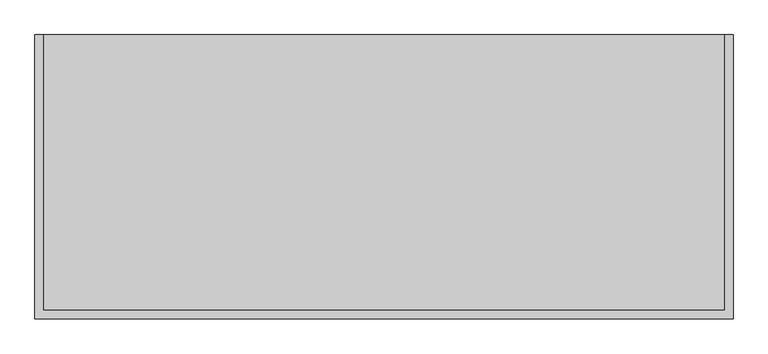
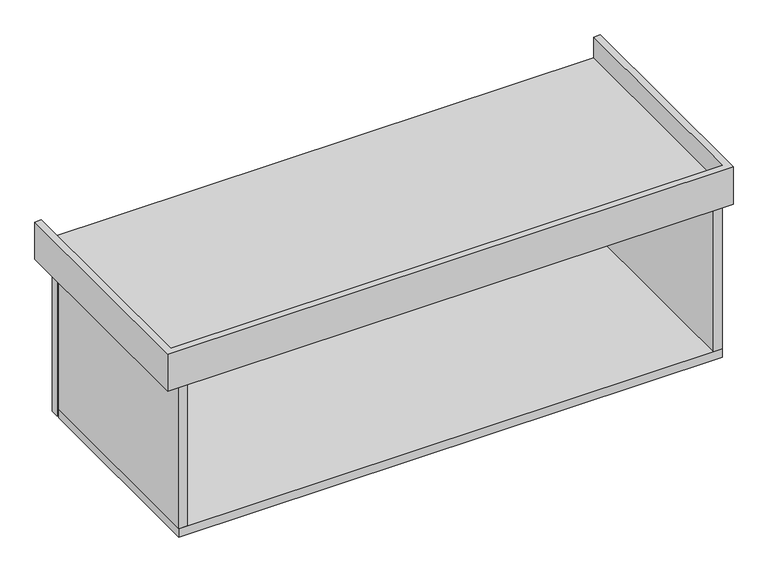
"""IFC4 building model written with IfcOpenShell, lengths in millimetres: furniture geometry, Mueble colgado 2 cajones al lado - lavabo sobreponer : MB9  mueble baño colgado-2 cajones al lado 150."""

import ifcopenshell
import ifcopenshell.guid

model = None  # the IFC model being written
_history = None  # IfcOwnerHistory: only IFC2X3 demands one
_inside = {}  # id of a spatial element -> (the spatial element, [elements in it])
_under = {}  # id of a project, library or spatial element -> (it, [spatial elements below it])
_declared = {}  # id of a project -> (the project, [libraries it declares])
_typed = {}  # id of a type object -> (the type object, [elements of that type])
_made_of = {}  # id of a material, layer set ... -> (it, [elements and type objects made of it])


def new_model(schema):
    """Start an empty IFC model of exactly this schema.

    Asked for "IFC4X3", IfcOpenShell would pick the latest addendum, in which some entities
    have other attributes; the version numbers below select the first issue.
    IFC2X3 requires an IfcOwnerHistory on every rooted entity: one is made here for all.
    """
    global model, _history
    if schema == "IFC4X3":
        model = ifcopenshell.file(schema_version=(4, 3, 0, 0))
    else:
        model = ifcopenshell.file(schema=schema)
    _inside.clear()
    _under.clear()
    _declared.clear()
    _typed.clear()
    _made_of.clear()
    _history = None
    if model.schema == "IFC2X3":
        org = make("IfcOrganization", Name="unknown")
        user = make(
            "IfcPersonAndOrganization",
            ThePerson=make("IfcPerson", FamilyName="unknown"),
            TheOrganization=org,
        )
        app = make(
            "IfcApplication",
            ApplicationDeveloper=org,
            Version="unknown",
            ApplicationFullName="unknown",
            ApplicationIdentifier="unknown",
        )
        _history = make(
            "IfcOwnerHistory",
            OwningUser=user,
            OwningApplication=app,
            ChangeAction="ADDED",
            CreationDate=0,
        )
    return model


def make(cls, **values):
    """One entity of the class cls with the attributes given. An attribute that is None is left unset."""
    return model.create_entity(
        cls, **{name: value for name, value in values.items() if value is not None}
    )


def rooted(cls, **values):
    """An entity with a GlobalId (a new one), such as an element, a storey or a relation."""
    return make(cls, GlobalId=ifcopenshell.guid.new(), OwnerHistory=_history, **values)


def si_unit(unit_type, name, prefix=None):
    """IfcSIUnit, for example si_unit("LENGTHUNIT", "METRE", prefix="MILLI")."""
    return make("IfcSIUnit", UnitType=unit_type, Prefix=prefix, Name=name)


def assignment(units):
    """IfcUnitAssignment: the units of a project."""
    return None if units is None else make("IfcUnitAssignment", Units=units)


def point(xyz):
    """IfcCartesianPoint."""
    return None if xyz is None else make("IfcCartesianPoint", Coordinates=xyz)


def direction(xyz):
    """IfcDirection."""
    return None if xyz is None else make("IfcDirection", DirectionRatios=xyz)


def frame(location, z_axis=None, x_axis=None):
    """IfcAxis2Placement3D, a coordinate frame: its origin and axes. An axis left out is left unset."""
    return make(
        "IfcAxis2Placement3D",
        Location=point(location),
        Axis=direction(z_axis),
        RefDirection=direction(x_axis),
    )


def origin():
    """The frame at (0, 0, 0) with its axes left unset."""
    return frame((0.0, 0.0, 0.0))


def place(relative_to, where):
    """IfcLocalPlacement: puts the frame where relative to a parent placement (None: the world)."""
    return make(
        "IfcLocalPlacement", PlacementRelTo=relative_to, RelativePlacement=where
    )


def context(
    kind, dimensions, precision=None, world=None, true_north=None, identifier=None
):
    """IfcGeometricRepresentationContext, for example the 3D "Model" context."""
    return make(
        "IfcGeometricRepresentationContext",
        ContextIdentifier=identifier,
        ContextType=kind,
        CoordinateSpaceDimension=dimensions,
        Precision=precision,
        WorldCoordinateSystem=world,
        TrueNorth=true_north,
    )


def project(units=None, contexts=None):
    """IfcProject with its units and contexts."""
    return rooted(
        "IfcProject",
        Name="project",
        RepresentationContexts=contexts,
        UnitsInContext=assignment(units),
    )


def spatial(cls, under=None, at=None, **own):
    """A site, building, storey or space (cls), placed at a placement, below another one or the project."""
    s = rooted(cls, ObjectPlacement=at, **own)
    if under is not None:
        _under.setdefault(under.id(), (under, []))[1].append(s)
    return s


def polyline(points):
    """IfcPolyline through the points."""
    return make("IfcPolyline", Points=[point(p) for p in points])


def outline(outer, holes=None, kind="AREA"):
    """IfcArbitraryClosedProfileDef: a profile drawn as a closed curve; with holes, ...WithVoids."""
    if holes is None:
        return make("IfcArbitraryClosedProfileDef", ProfileType=kind, OuterCurve=outer)
    return make(
        "IfcArbitraryProfileDefWithVoids",
        ProfileType=kind,
        OuterCurve=outer,
        InnerCurves=holes,
    )


def extrude(swept, where, along, depth):
    """IfcExtrudedAreaSolid: the profile swept, set in the frame where, extruded along a direction by depth."""
    return make(
        "IfcExtrudedAreaSolid",
        SweptArea=swept,
        Position=where,
        ExtrudedDirection=direction(along),
        Depth=depth,
    )


def faces_of(points, faces, orient=None, outer=None):
    """IfcFace entities. A face is a list of loops; a loop is a list of indices into points, from 0.

    orient and outer hold one flag for each loop. By default every Orientation is true, the
    first loop of a face is its IfcFaceOuterBound and the others are IfcFaceBound.
    """
    made = []
    for i, loops in enumerate(faces):
        bounds = []
        for j, loop in enumerate(loops):
            is_outer = j == 0 if outer is None else outer[i][j]
            bounds.append(
                make(
                    "IfcFaceOuterBound" if is_outer else "IfcFaceBound",
                    Bound=make("IfcPolyLoop", Polygon=[points[k] for k in loop]),
                    Orientation=True if orient is None else orient[i][j],
                )
            )
        made.append(make("IfcFace", Bounds=bounds))
    return made


def faceted_brep(points, faces, orient=None, outer=None, voids=None):
    """IfcFacetedBrep: a solid bounded by flat faces; with voids (closed shells), ...WithVoids."""
    shared = [point(p) for p in points]
    hull = make("IfcClosedShell", CfsFaces=faces_of(shared, faces, orient, outer))
    if voids is None:
        return make("IfcFacetedBrep", Outer=hull)
    return make(
        "IfcFacetedBrepWithVoids",
        Outer=hull,
        Voids=[
            make(cls, CfsFaces=faces_of(shared, fs, o, b)) for cls, fs, o, b in voids
        ],
    )


def shape(context_of_items, identifier, shape_type, items):
    """IfcShapeRepresentation: the items that make up one representation, for example the "Body"."""
    return make(
        "IfcShapeRepresentation",
        ContextOfItems=context_of_items,
        RepresentationIdentifier=identifier,
        RepresentationType=shape_type,
        Items=items,
    )


def source(mapping_origin, context_of_items, identifier, shape_type, items):
    """IfcRepresentationMap: a shape defined once, which mapped items show again and again."""
    return make(
        "IfcRepresentationMap",
        MappingOrigin=mapping_origin,
        MappedRepresentation=shape(context_of_items, identifier, shape_type, items),
    )


def transform(
    local_origin,
    x_axis=None,
    y_axis=None,
    z_axis=None,
    scale=None,
    scale2=None,
    scale3=None,
    uniform=True,
):
    """IfcCartesianTransformationOperator3D, or its non-uniform kind. x_axis, y_axis, z_axis: its Axis1, 2, 3."""
    if uniform:
        return make(
            "IfcCartesianTransformationOperator3D",
            Axis1=direction(x_axis),
            Axis2=direction(y_axis),
            LocalOrigin=point(local_origin),
            Scale=scale,
            Axis3=direction(z_axis),
        )
    return make(
        "IfcCartesianTransformationOperator3DnonUniform",
        Axis1=direction(x_axis),
        Axis2=direction(y_axis),
        LocalOrigin=point(local_origin),
        Scale=scale,
        Axis3=direction(z_axis),
        Scale2=scale2,
        Scale3=scale3,
    )


def mapped(mapping_source, mapping_target):
    """IfcMappedItem: shows the shape of a source again, moved by a transform."""
    return make(
        "IfcMappedItem", MappingSource=mapping_source, MappingTarget=mapping_target
    )


def made_of(thing, what):
    """Note that an element or type object is made of a material, layer set ...; save() writes the relation."""
    if what is not None:
        _made_of.setdefault(what.id(), (what, []))[1].append(thing)
    return thing


def element(
    cls,
    number,
    at=None,
    inside=None,
    cuts=None,
    type_object=None,
    material=None,
    context=None,
    identifier="Body",
    shape_type=None,
    held_by="IfcProductDefinitionShape",
    body=None,
    shapes=None,
    **own,
):
    """One element of the class cls, such as IfcWall. Its Tag is "e" and its number.

    at: its placement. inside: the storey or other place that contains it. cuts: it is an
    opening in that element (IfcRelVoidsElement). A single representation is given by context,
    identifier, shape_type and body (its items); several are given by shapes. held_by: the class
    of the entity that holds the representations. save() writes the other relations.
    """
    e = rooted(cls, Tag="e%d" % number, ObjectPlacement=at, **own)
    if body is not None:
        shapes = [shape(context, identifier, shape_type, body)]
    if shapes is not None:
        e.Representation = make(held_by, Representations=shapes)
    if inside is not None:
        _inside.setdefault(inside.id(), (inside, []))[1].append(e)
    if cuts is not None:
        rooted(
            "IfcRelVoidsElement", RelatingBuildingElement=cuts, RelatedOpeningElement=e
        )
    if type_object is not None:
        _typed.setdefault(type_object.id(), (type_object, []))[1].append(e)
    return made_of(e, material)


def aggregate(whole, parts):
    """IfcRelAggregates: a whole, such as a stair, and the parts it consists of."""
    return rooted("IfcRelAggregates", RelatingObject=whole, RelatedObjects=parts)


def save(model, path):
    """Write the relations noted so far, then the file.

    IfcRelAggregates (storeys below a building ...), IfcRelContainedInSpatialStructure (elements
    in a storey), IfcRelDefinesByType, IfcRelAssociatesMaterial and IfcRelDeclares: one each for
    every whole, place, type object, material and project.
    """
    for whole, parts in _under.values():
        aggregate(whole, parts)
    for where, things in _inside.values():
        rooted(
            "IfcRelContainedInSpatialStructure",
            RelatedElements=things,
            RelatingStructure=where,
        )
    for kind, things in _typed.values():
        rooted("IfcRelDefinesByType", RelatedObjects=things, RelatingType=kind)
    for what, things in _made_of.values():
        rooted("IfcRelAssociatesMaterial", RelatedObjects=things, RelatingMaterial=what)
    for by, libraries in _declared.values():
        rooted("IfcRelDeclares", RelatingContext=by, RelatedDefinitions=libraries)
    model.write(path)


def furniture_b3b8df06(model_context):
    return source(origin(), model_context, "Body", "SolidModel", [
        extrude(outline(polyline([(-495.0, 550.0), (-495.0, 570.0), (120.0, 570.0), (120.0, 550.0), (-495.0, 550.0)])), frame((0.0, 0.0, 350.0), z_axis=(0.0, 0.0, 1.0), x_axis=(1.0, 0.0, 0.0)), (0.0, 0.0, 1.0), 350.0),
        faceted_brep([(-520.0, 595.0, 800.0), (-505.0, 595.0, 800.0), (-505.0, 595.0, 750.0), (755.0, 595.0, 750.0), (755.0, 595.0, 800.0), (770.0, 595.0, 800.0), (770.0, 595.0, 710.0), (-520.0, 595.0, 710.0), (-520.0, 70.0, 800.0), (770.0, 70.0, 800.0), (755.0, 85.0, 800.0), (-505.0, 85.0, 800.0), (-505.0, 85.0, 750.0), (-520.0, 70.0, 710.0), (755.0, 85.0, 750.0), (770.0, 70.0, 710.0)], [[[0, 1, 2, 3, 4, 5, 6, 7]], [[1, 0, 8, 9, 5, 4, 10, 11]], [[2, 1, 11, 12]], [[0, 7, 13, 8]], [[11, 10, 14, 12]], [[9, 8, 13, 15]], [[10, 4, 3, 14]], [[6, 5, 9, 15]], [[3, 2, 12, 14]], [[6, 15, 13, 7]]]),
        extrude(outline(polyline([(745.0, 570.0), (745.0, 550.0), (130.0, 550.0), (130.0, 570.0), (745.0, 570.0)])), frame((0.0, 0.0, 350.0), z_axis=(0.0, 0.0, 1.0), x_axis=(1.0, 0.0, 0.0)), (0.0, 0.0, 1.0), 350.0),
        extrude(outline(polyline([(745.0, 70.0), (725.0, 70.0), (725.0, 545.0), (745.0, 545.0), (745.0, 70.0)])), frame((0.0, 0.0, 370.0), z_axis=(0.0, 0.0, 1.0), x_axis=(1.0, 0.0, 0.0)), (0.0, 0.0, 1.0), 340.0),
        extrude(outline(polyline([(-475.0, 70.0), (-495.0, 70.0), (-495.0, 545.0), (-475.0, 545.0), (-475.0, 70.0)])), frame((0.0, 0.0, 370.0), z_axis=(0.0, 0.0, 1.0), x_axis=(1.0, 0.0, 0.0)), (0.0, 0.0, 1.0), 340.0),
        extrude(outline(polyline([(745.0, 545.0), (745.0, 70.0), (-495.0, 70.0), (-495.0, 545.0), (745.0, 545.0)])), frame((0.0, 0.0, 350.0), z_axis=(0.0, 0.0, 1.0), x_axis=(1.0, 0.0, 0.0)), (0.0, 0.0, 1.0), 20.0),
    ])


if __name__ == "__main__":
    model = new_model("IFC4")
    model_context = context("Model", 3, world=origin())
    ifc_project = project(units=[si_unit("LENGTHUNIT", "METRE", prefix="MILLI")], contexts=[model_context])
    site = spatial("IfcSite", under=ifc_project)
    building = spatial("IfcBuilding", under=site)
    placement = place(None, origin())
    furniture_shape = furniture_b3b8df06(model_context)
    element("IfcFurniture", 1, ObjectType="Mueble colgado 2 cajones al lado - lavabo sobreponer : MB9  mueble baño colgado-2 cajones al lado 150", at=placement, inside=building, context=model_context, shape_type="MappedRepresentation", body=[
        mapped(furniture_shape, transform((0.0, 0.0, 0.0), x_axis=(1.0, 0.0, 0.0), y_axis=(0.0, 1.0, 0.0), z_axis=(0.0, 0.0, 1.0))),
    ])
    save(model, "model.ifc")
